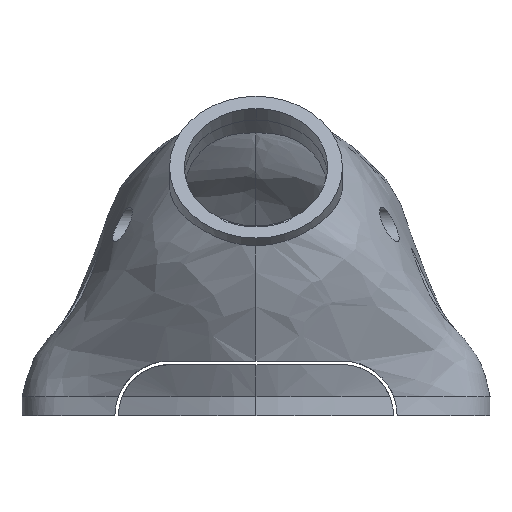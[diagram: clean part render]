
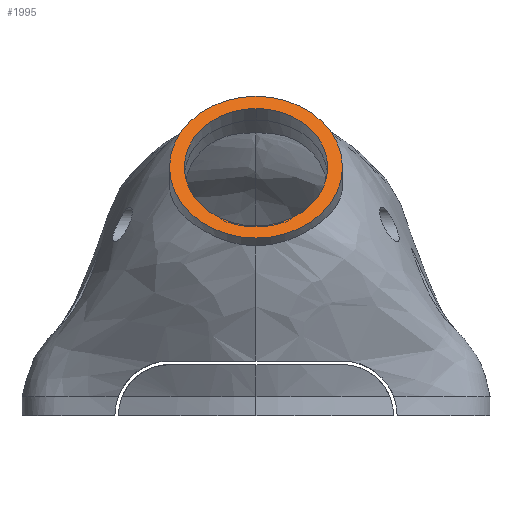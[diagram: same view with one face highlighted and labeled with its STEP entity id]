
A CAD part, left-side view. The second image highlights one B-rep face of the part: STEP entity #1995.
In plain terms, the highlighted planar face has unit normal (-0.819, 0, 0.574).
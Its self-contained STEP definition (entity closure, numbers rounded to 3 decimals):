
#45=FACE_BOUND('',#344,.T.);
#62=CIRCLE('',#2110,7.875);
#74=CIRCLE('',#2139,9.5);
#75=CIRCLE('',#2140,7.875);
#143=PLANE('',#2138);
#210=FACE_OUTER_BOUND('',#343,.T.);
#343=EDGE_LOOP('',(#1612));
#344=EDGE_LOOP('',(#1613,#1614));
#876=VERTEX_POINT('',#9099);
#877=VERTEX_POINT('',#9101);
#891=VERTEX_POINT('',#9383);
#1127=EDGE_CURVE('',#877,#876,#62,.T.);
#1156=EDGE_CURVE('',#891,#891,#74,.T.);
#1157=EDGE_CURVE('',#876,#877,#75,.T.);
#1612=ORIENTED_EDGE('',*,*,#1156,.F.);
#1613=ORIENTED_EDGE('',*,*,#1127,.T.);
#1614=ORIENTED_EDGE('',*,*,#1157,.T.);
#1995=ADVANCED_FACE('',(#210,#45),#143,.F.);
#2110=AXIS2_PLACEMENT_3D('',#9102,#2274,#2275);
#2138=AXIS2_PLACEMENT_3D('',#9382,#2344,#2345);
#2139=AXIS2_PLACEMENT_3D('',#9384,#2346,#2347);
#2140=AXIS2_PLACEMENT_3D('',#9385,#2348,#2349);
#2274=DIRECTION('center_axis',(0.819,0.,
-0.574));
#2275=DIRECTION('ref_axis',(0.,-1.,0.));
#2344=DIRECTION('center_axis',(0.819,0.,
-0.574));
#2345=DIRECTION('ref_axis',(0.,1.,0.));
#2346=DIRECTION('center_axis',(0.819,0.,
-0.574));
#2347=DIRECTION('ref_axis',(0.,-1.,0.));
#2348=DIRECTION('center_axis',(0.819,0.,
-0.574));
#2349=DIRECTION('ref_axis',(0.,-1.,0.));
#9099=CARTESIAN_POINT('',(-36.479,0.,33.75));
#9101=CARTESIAN_POINT('',(-45.513,0.,20.848));
#9102=CARTESIAN_POINT('Origin',(-40.996,0.,27.299));
#9382=CARTESIAN_POINT('Origin',(-40.335,0.,28.243));
#9383=CARTESIAN_POINT('',(-40.996,-9.5,27.299));
#9384=CARTESIAN_POINT('Origin',(-40.996,0.,27.299));
#9385=CARTESIAN_POINT('Origin',(-40.996,0.,27.299));
